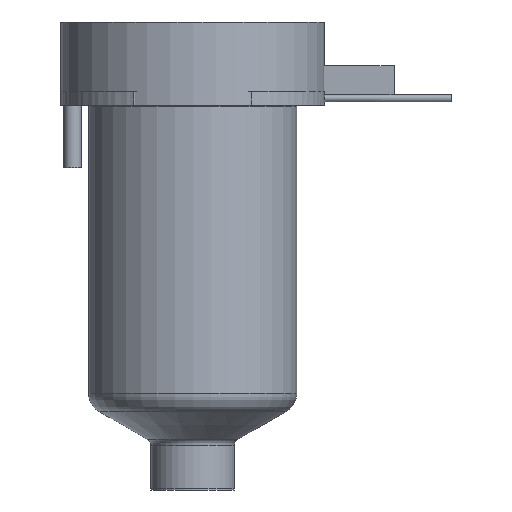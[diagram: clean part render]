
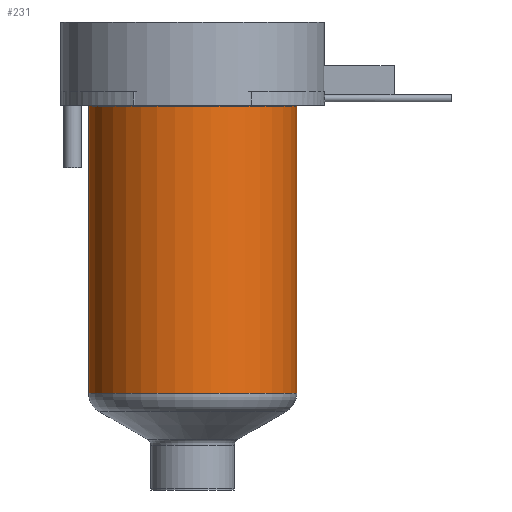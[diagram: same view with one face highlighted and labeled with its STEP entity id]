
A CAD part, front view. The second image highlights one B-rep face of the part: STEP entity #231.
In plain terms, the highlighted cylindrical face has radius 15 mm (diameter 30 mm), a full revolution.
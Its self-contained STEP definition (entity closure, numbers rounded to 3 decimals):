
#209=CYLINDRICAL_SURFACE('',#1024,15.);
#231=ADVANCED_FACE('',(#374,#375),#209,.T.);
#374=FACE_BOUND('',#427,.T.);
#375=FACE_BOUND('',#428,.T.);
#427=EDGE_LOOP('',(#527));
#428=EDGE_LOOP('',(#528));
#527=ORIENTED_EDGE('',*,*,#844,.F.);
#528=ORIENTED_EDGE('',*,*,#845,.T.);
#757=VERTEX_POINT('',#1445);
#758=VERTEX_POINT('',#1447);
#844=EDGE_CURVE('',#757,#757,#959,.T.);
#845=EDGE_CURVE('',#758,#758,#960,.T.);
#959=CIRCLE('',#1022,15.);
#960=CIRCLE('',#1023,15.);
#1022=AXIS2_PLACEMENT_3D('',#1444,#1152,#1153);
#1023=AXIS2_PLACEMENT_3D('',#1446,#1154,#1155);
#1024=AXIS2_PLACEMENT_3D('',#1448,#1156,#1157);
#1152=DIRECTION('',(0.,0.,-1.));
#1153=DIRECTION('',(-1.,0.,0.));
#1154=DIRECTION('',(0.,0.,-1.));
#1155=DIRECTION('',(1.,0.,0.));
#1156=DIRECTION('',(0.,0.,-1.));
#1157=DIRECTION('',(-1.,0.,0.));
#1444=CARTESIAN_POINT('',(0.,0.,-53.457));
#1445=CARTESIAN_POINT('',(-15.,0.,-53.457));
#1446=CARTESIAN_POINT('',(0.,0.,-12.1));
#1447=CARTESIAN_POINT('',(15.,0.,-12.1));
#1448=CARTESIAN_POINT('',(0.,0.,0.));
